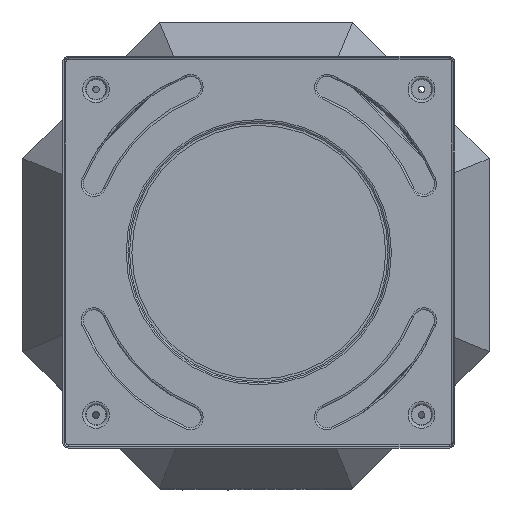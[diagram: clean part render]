
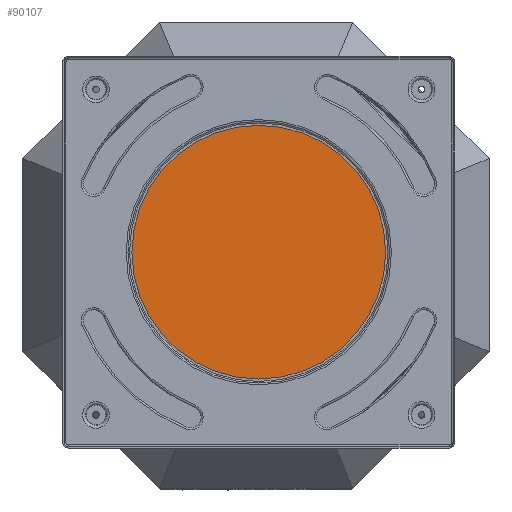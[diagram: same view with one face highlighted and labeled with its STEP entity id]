
A CAD part, top view. The second image highlights one B-rep face of the part: STEP entity #90107.
In plain terms, the highlighted planar face has unit normal (0, 0, 1).
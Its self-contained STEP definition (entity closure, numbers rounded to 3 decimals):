
#6304=CIRCLE('',#97818,230.);
#6305=CIRCLE('',#97819,230.);
#11475=FACE_OUTER_BOUND('',#16579,.T.);
#16579=EDGE_LOOP('',(#77701,#77702));
#40973=VERTEX_POINT('',#151961);
#40974=VERTEX_POINT('',#151962);
#53268=EDGE_CURVE('',#40973,#40974,#6304,.T.);
#53269=EDGE_CURVE('',#40974,#40973,#6305,.T.);
#77701=ORIENTED_EDGE('',*,*,#53268,.T.);
#77702=ORIENTED_EDGE('',*,*,#53269,.T.);
#80920=PLANE('',#97820);
#90107=ADVANCED_FACE('',(#11475),#80920,.T.);
#97818=AXIS2_PLACEMENT_3D('',#151963,#121102,#121103);
#97819=AXIS2_PLACEMENT_3D('',#151964,#121104,#121105);
#97820=AXIS2_PLACEMENT_3D('',#151966,#121107,#121108);
#121102=DIRECTION('center_axis',(0.,0.,1.));
#121103=DIRECTION('ref_axis',(-1.,0.,0.));
#121104=DIRECTION('center_axis',(0.,0.,1.));
#121105=DIRECTION('ref_axis',(-1.,0.,0.));
#121107=DIRECTION('center_axis',(0.,0.,1.));
#121108=DIRECTION('ref_axis',(-1.,0.,0.));
#151961=CARTESIAN_POINT('',(626.569,826.362,466.25));
#151962=CARTESIAN_POINT('',(1086.569,826.362,466.25));
#151963=CARTESIAN_POINT('Origin',(856.569,826.362,466.25));
#151964=CARTESIAN_POINT('Origin',(856.569,826.362,466.25));
#151966=CARTESIAN_POINT('Origin',(856.569,826.362,466.25));
